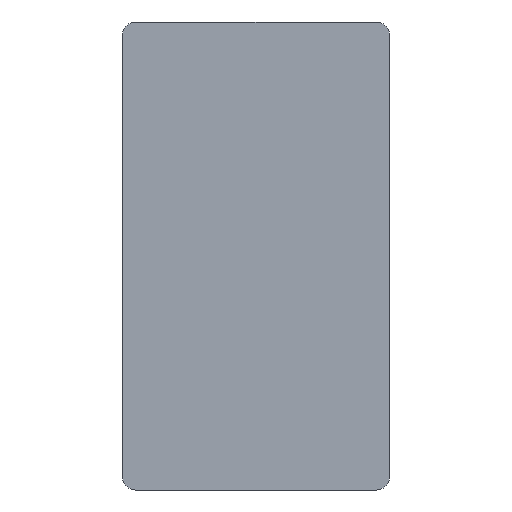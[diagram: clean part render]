
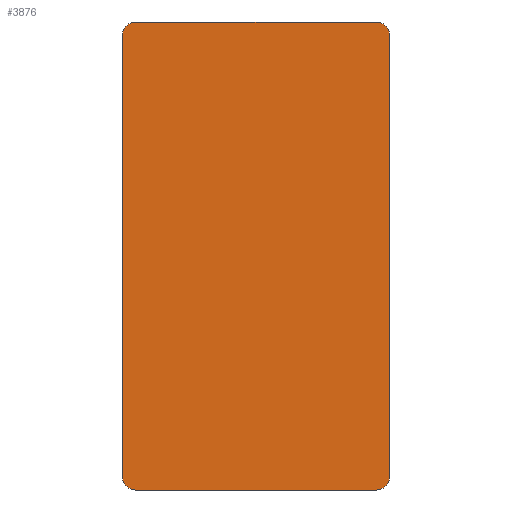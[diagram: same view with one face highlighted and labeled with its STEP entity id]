
A CAD part, front view. The second image highlights one B-rep face of the part: STEP entity #3876.
In plain terms, the highlighted planar face has unit normal (0, -1, 0).
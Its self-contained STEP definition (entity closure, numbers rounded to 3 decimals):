
#194=PLANE('',#4267);
#381=FACE_OUTER_BOUND('',#653,.T.);
#653=EDGE_LOOP('',(#3590,#3591,#3592,#3593,#3594,#3595,#3596,#3597));
#1008=LINE('',#6448,#1376);
#1012=LINE('',#6460,#1380);
#1016=LINE('',#6472,#1384);
#1020=LINE('',#6483,#1388);
#1376=VECTOR('',#5336,10.);
#1380=VECTOR('',#5348,10.);
#1384=VECTOR('',#5360,10.);
#1388=VECTOR('',#5372,10.);
#1566=CIRCLE('',#4250,4.);
#1568=CIRCLE('',#4254,4.);
#1570=CIRCLE('',#4258,4.);
#1572=CIRCLE('',#4262,4.);
#1926=VERTEX_POINT('',#6438);
#1927=VERTEX_POINT('',#6439);
#1930=VERTEX_POINT('',#6447);
#1932=VERTEX_POINT('',#6453);
#1934=VERTEX_POINT('',#6459);
#1936=VERTEX_POINT('',#6465);
#1938=VERTEX_POINT('',#6471);
#1940=VERTEX_POINT('',#6477);
#2470=EDGE_CURVE('',#1926,#1927,#1566,.T.);
#2474=EDGE_CURVE('',#1927,#1930,#1008,.T.);
#2477=EDGE_CURVE('',#1930,#1932,#1568,.T.);
#2480=EDGE_CURVE('',#1932,#1934,#1012,.T.);
#2483=EDGE_CURVE('',#1934,#1936,#1570,.T.);
#2486=EDGE_CURVE('',#1936,#1938,#1016,.T.);
#2489=EDGE_CURVE('',#1938,#1940,#1572,.T.);
#2492=EDGE_CURVE('',#1940,#1926,#1020,.T.);
#3590=ORIENTED_EDGE('',*,*,#2492,.T.);
#3591=ORIENTED_EDGE('',*,*,#2470,.T.);
#3592=ORIENTED_EDGE('',*,*,#2474,.T.);
#3593=ORIENTED_EDGE('',*,*,#2477,.T.);
#3594=ORIENTED_EDGE('',*,*,#2480,.T.);
#3595=ORIENTED_EDGE('',*,*,#2483,.T.);
#3596=ORIENTED_EDGE('',*,*,#2486,.T.);
#3597=ORIENTED_EDGE('',*,*,#2489,.T.);
#3876=ADVANCED_FACE('',(#381),#194,.T.);
#4250=AXIS2_PLACEMENT_3D('',#6440,#5328,#5329);
#4254=AXIS2_PLACEMENT_3D('',#6454,#5341,#5342);
#4258=AXIS2_PLACEMENT_3D('',#6466,#5353,#5354);
#4262=AXIS2_PLACEMENT_3D('',#6478,#5365,#5366);
#4267=AXIS2_PLACEMENT_3D('',#6487,#5378,#5379);
#5328=DIRECTION('center_axis',(0.,-1.,0.));
#5329=DIRECTION('ref_axis',(1.,0.,0.));
#5336=DIRECTION('',(0.,0.,-1.));
#5341=DIRECTION('center_axis',(0.,-1.,0.));
#5342=DIRECTION('ref_axis',(0.,0.,1.));
#5348=DIRECTION('',(1.,0.,0.));
#5353=DIRECTION('center_axis',(0.,-1.,0.));
#5354=DIRECTION('ref_axis',(-1.,0.,0.));
#5360=DIRECTION('',(0.,0.,1.));
#5365=DIRECTION('center_axis',(0.,-1.,0.));
#5366=DIRECTION('ref_axis',(0.,0.,-1.));
#5372=DIRECTION('',(-1.,0.,0.));
#5378=DIRECTION('center_axis',(0.,-1.,0.));
#5379=DIRECTION('ref_axis',(0.,0.,-1.));
#6438=CARTESIAN_POINT('',(-76.,0.,0.));
#6439=CARTESIAN_POINT('',(-80.,0.,-4.));
#6440=CARTESIAN_POINT('Origin',(-76.,0.,-4.));
#6447=CARTESIAN_POINT('',(-80.,0.,-136.));
#6448=CARTESIAN_POINT('',(-80.,0.,-4.));
#6453=CARTESIAN_POINT('',(-76.,0.,-140.));
#6454=CARTESIAN_POINT('Origin',(-76.,0.,-136.));
#6459=CARTESIAN_POINT('',(-4.,0.,-140.));
#6460=CARTESIAN_POINT('',(-76.,0.,-140.));
#6465=CARTESIAN_POINT('',(0.,0.,-136.));
#6466=CARTESIAN_POINT('Origin',(-4.,0.,-136.));
#6471=CARTESIAN_POINT('',(0.,0.,-4.));
#6472=CARTESIAN_POINT('',(0.,0.,-136.));
#6477=CARTESIAN_POINT('',(-4.,0.,0.));
#6478=CARTESIAN_POINT('Origin',(-4.,0.,-4.));
#6483=CARTESIAN_POINT('',(-4.,0.,0.));
#6487=CARTESIAN_POINT('Origin',(-40.,0.,-70.));
